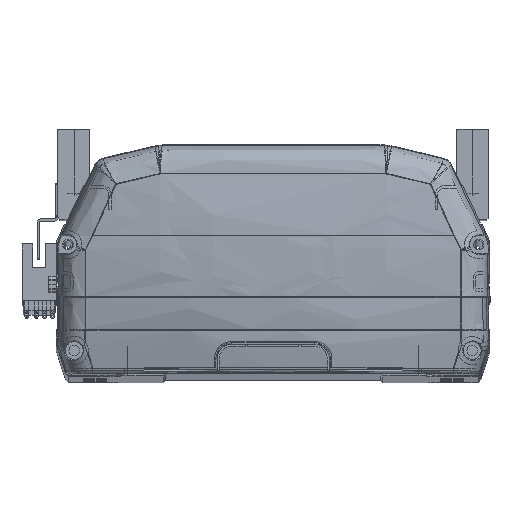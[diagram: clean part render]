
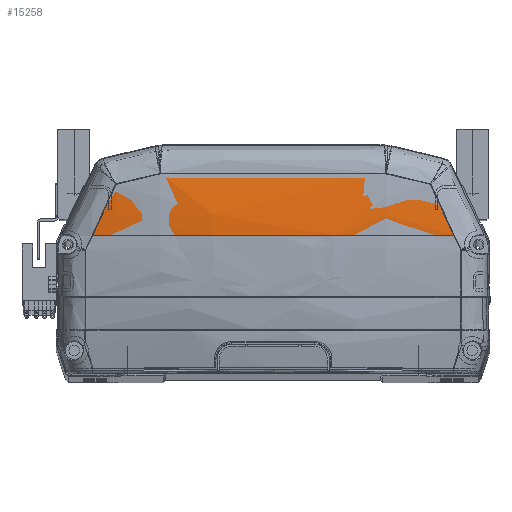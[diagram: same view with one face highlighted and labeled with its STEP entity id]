
A CAD part, top view. The second image highlights one B-rep face of the part: STEP entity #15258.
In plain terms, the highlighted toroidal (fillet/blend) face has major radius 312.5 mm and minor radius 572.4 mm.
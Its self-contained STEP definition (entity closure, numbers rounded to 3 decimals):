
#705 = DIRECTION ( 'NONE',  ( 1., 0., 0. ) ) ;
#2380 = CARTESIAN_POINT ( 'NONE',  ( 44.331, 79.443, -2.97 ) ) ;
#2968 = EDGE_CURVE ( 'NONE', #10278, #9361, #39523, .T. ) ;
#3418 = ORIENTED_EDGE ( 'NONE', *, *, #34246, .F. ) ;
#3777 = CARTESIAN_POINT ( 'NONE',  ( -55.929, 76.661, -3.711 ) ) ;
#5593 = CARTESIAN_POINT ( 'NONE',  ( 64.811, 68.545, -4.037 ) ) ;
#6286 = CARTESIAN_POINT ( 'NONE',  ( -61.718, 75.278, -4.232 ) ) ;
#7782 = B_SPLINE_CURVE_WITH_KNOTS ( 'NONE', 3,
 ( #19479, #29790, #22828, #26181, #9339, #6286 ),
 .UNSPECIFIED., .F., .F.,
 ( 4, 2, 4 ),
 ( 0.006, 0.017, 0.029 ),
 .UNSPECIFIED. ) ;
#8499 = ORIENTED_EDGE ( 'NONE', *, *, #10860, .T. ) ;
#8794 = CARTESIAN_POINT ( 'NONE',  ( -44.331, 79.443, -2.97 ) ) ;
#9307 = TOROIDAL_SURFACE ( 'NONE', #30524, -312.5, 572.4 ) ;
#9339 = CARTESIAN_POINT ( 'NONE',  ( -63.264, 71.911, -4.135 ) ) ;
#9361 = VERTEX_POINT ( 'NONE', #9593 ) ;
#9593 = CARTESIAN_POINT ( 'NONE',  ( 71.027, 55.096, -4.524 ) ) ;
#10172 = CARTESIAN_POINT ( 'NONE',  ( 0., 55.096, -572.5 ) ) ;
#10278 = VERTEX_POINT ( 'NONE', #29381 ) ;
#10467 = DIRECTION ( 'NONE',  ( 0., 0., 1. ) ) ;
#10611 = CARTESIAN_POINT ( 'NONE',  ( -44.331, 79.443, -2.97 ) ) ;
#10860 = EDGE_CURVE ( 'NONE', #24255, #9361, #13439, .T. ) ;
#11284 = AXIS2_PLACEMENT_3D ( 'NONE', #10172, #20163, #10467 ) ;
#13217 = CARTESIAN_POINT ( 'NONE',  ( 29.579, 79.389, -1.814 ) ) ;
#13439 = CIRCLE ( 'NONE', #11284, 572.4 ) ;
#15258 = ADVANCED_FACE ( 'NONE', ( #41306 ), #9307, .T. ) ;
#15367 = CARTESIAN_POINT ( 'NONE',  ( -61.718, 75.278, -4.232 ) ) ;
#19316 = VERTEX_POINT ( 'NONE', #2380 ) ;
#19479 = CARTESIAN_POINT ( 'NONE',  ( -71.027, 55.096, -4.524 ) ) ;
#19862 = CARTESIAN_POINT ( 'NONE',  ( 44.331, 79.443, -2.97 ) ) ;
#20163 = DIRECTION ( 'NONE',  ( 0., 1., 0. ) ) ;
#22107 = VERTEX_POINT ( 'NONE', #15367 ) ;
#22668 = ORIENTED_EDGE ( 'NONE', *, *, #37998, .F. ) ;
#22828 = CARTESIAN_POINT ( 'NONE',  ( -67.917, 61.816, -4.208 ) ) ;
#23011 = ORIENTED_EDGE ( 'NONE', *, *, #23618, .F. ) ;
#23318 = B_SPLINE_CURVE_WITH_KNOTS ( 'NONE', 3,
 ( #8794, #28825, #23631, #36591, #13217, #19862 ),
 .UNSPECIFIED., .F., .F.,
 ( 4, 2, 4 ),
 ( 0., 0.044, 0.089 ),
 .UNSPECIFIED. ) ;
#23618 = EDGE_CURVE ( 'NONE', #19316, #10278, #39879, .T. ) ;
#23631 = CARTESIAN_POINT ( 'NONE',  ( -14.788, 79.361, -1.235 ) ) ;
#23650 = DIRECTION ( 'NONE',  ( 0., 0., -1. ) ) ;
#24175 = B_SPLINE_CURVE_WITH_KNOTS ( 'NONE', 3,
 ( #33836, #3777, #37045, #10611 ),
 .UNSPECIFIED., .F., .F.,
 ( 4, 4 ),
 ( 0., 0.018 ),
 .UNSPECIFIED. ) ;
#24255 = VERTEX_POINT ( 'NONE', #37768 ) ;
#25263 = EDGE_LOOP ( 'NONE', ( #22668, #8499, #30134, #23011, #3418, #35452 ) ) ;
#26181 = CARTESIAN_POINT ( 'NONE',  ( -64.813, 68.545, -4.11 ) ) ;
#28375 = CARTESIAN_POINT ( 'NONE',  ( -44.331, 79.443, -2.97 ) ) ;
#28825 = CARTESIAN_POINT ( 'NONE',  ( -29.579, 79.39, -1.814 ) ) ;
#29381 = CARTESIAN_POINT ( 'NONE',  ( 61.718, 75.278, -4.232 ) ) ;
#29790 = CARTESIAN_POINT ( 'NONE',  ( -69.472, 58.454, -4.329 ) ) ;
#30134 = ORIENTED_EDGE ( 'NONE', *, *, #2968, .F. ) ;
#30524 = AXIS2_PLACEMENT_3D ( 'NONE', #40971, #705, #23650 ) ;
#31313 = VERTEX_POINT ( 'NONE', #28375 ) ;
#33836 = CARTESIAN_POINT ( 'NONE',  ( -61.718, 75.278, -4.232 ) ) ;
#34246 = EDGE_CURVE ( 'NONE', #31313, #19316, #23318, .T. ) ;
#34462 = CARTESIAN_POINT ( 'NONE',  ( 61.718, 75.278, -4.232 ) ) ;
#34751 = CARTESIAN_POINT ( 'NONE',  ( 44.331, 79.443, -2.97 ) ) ;
#34925 = CARTESIAN_POINT ( 'NONE',  ( 61.718, 75.278, -4.232 ) ) ;
#35452 = ORIENTED_EDGE ( 'NONE', *, *, #40583, .F. ) ;
#36591 = CARTESIAN_POINT ( 'NONE',  ( 14.805, 79.361, -1.235 ) ) ;
#37045 = CARTESIAN_POINT ( 'NONE',  ( -50.132, 78.049, -3.29 ) ) ;
#37680 = CARTESIAN_POINT ( 'NONE',  ( 50.132, 78.049, -3.29 ) ) ;
#37768 = CARTESIAN_POINT ( 'NONE',  ( -71.027, 55.096, -4.524 ) ) ;
#37998 = EDGE_CURVE ( 'NONE', #24255, #22107, #7782, .T. ) ;
#38140 = CARTESIAN_POINT ( 'NONE',  ( 67.917, 61.809, -4.135 ) ) ;
#38597 = CARTESIAN_POINT ( 'NONE',  ( 71.027, 55.096, -4.524 ) ) ;
#39523 = B_SPLINE_CURVE_WITH_KNOTS ( 'NONE', 3,
 ( #34925, #5593, #38140, #38597 ),
 .UNSPECIFIED., .F., .F.,
 ( 4, 4 ),
 ( 0., 0.022 ),
 .UNSPECIFIED. ) ;
#39879 = B_SPLINE_CURVE_WITH_KNOTS ( 'NONE', 3,
 ( #34751, #37680, #41038, #34462 ),
 .UNSPECIFIED., .F., .F.,
 ( 4, 4 ),
 ( 0., 0.018 ),
 .UNSPECIFIED. ) ;
#40583 = EDGE_CURVE ( 'NONE', #22107, #31313, #24175, .T. ) ;
#40971 = CARTESIAN_POINT ( 'NONE',  ( 0., 55.096, -260. ) ) ;
#41038 = CARTESIAN_POINT ( 'NONE',  ( 55.929, 76.66, -3.711 ) ) ;
#41306 = FACE_OUTER_BOUND ( 'NONE', #25263, .T. ) ;
